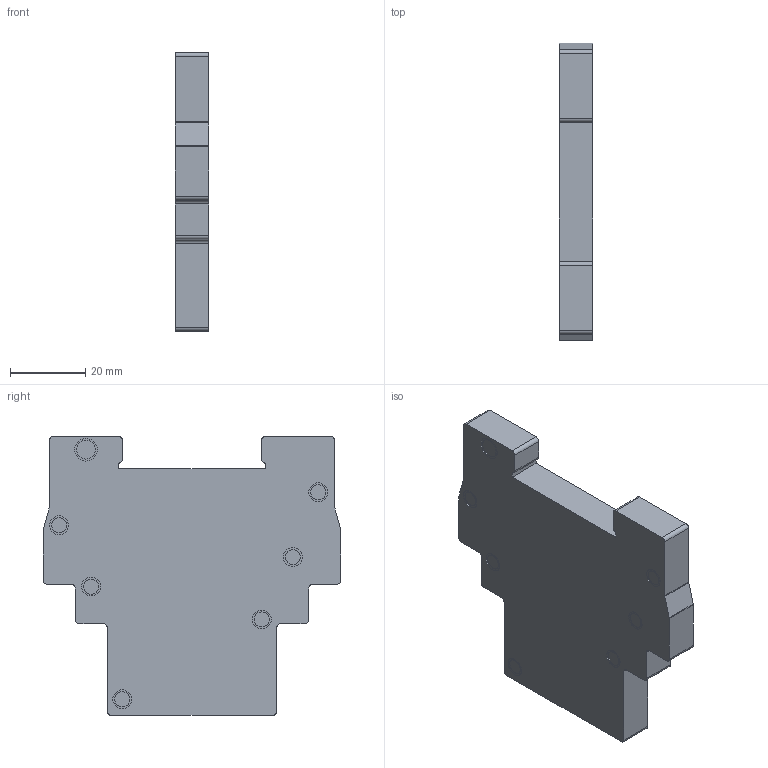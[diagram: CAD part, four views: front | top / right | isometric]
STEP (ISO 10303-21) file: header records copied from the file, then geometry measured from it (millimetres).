
FILE_DESCRIPTION(/* description */ (''),/* implementation_level */ '2;1');
FILE_NAME(/* name */ 'D:\CHINT\Аксессуары для автоматического выключателя Серия DZ158\Вспомогательный контакт AX-1 для DZ158 (R) (CHINT).stp',/* time_stamp */ '2017-09-30T16:09:25+04:00',/* author */ ('RSagdiev'),/* organization */ (''),/* preprocessor_version */ 'ST-DEVELOPER v16.5',/* originating_system */ 'Autodesk Inventor 2017',/* authorisation */ '');
FILE_SCHEMA (('AUTOMOTIVE_DESIGN { 1 0 10303 214 3 1 1 }'));
Length unit declared in the file: millimetre
Products named in the file (1): Вспомогательный 
контакт AX-1 для DZ158 (
R) (CHINT)
Bounding box: 9 x 79 x 74.1 mm (x, y, z)
Volume: 39617.1 mm3; surface area: 12074.2 mm2
Topology: 1 solids, 1 shells, 214 faces, 516 edges, 344 vertices
Faces by surface type: plane 146, cylinder 51, bspline 17
Full cylindrical faces by diameter (mm): 4 x12, 5 x17, 6 x2
Entity records: 6254 total; most frequent: CARTESIAN_POINT 1316, ORIENTED_EDGE 970, DIRECTION 949, EDGE_CURVE 485, LINE 349, VECTOR 349, VERTEX_POINT 344, AXIS2_PLACEMENT_3D 300
